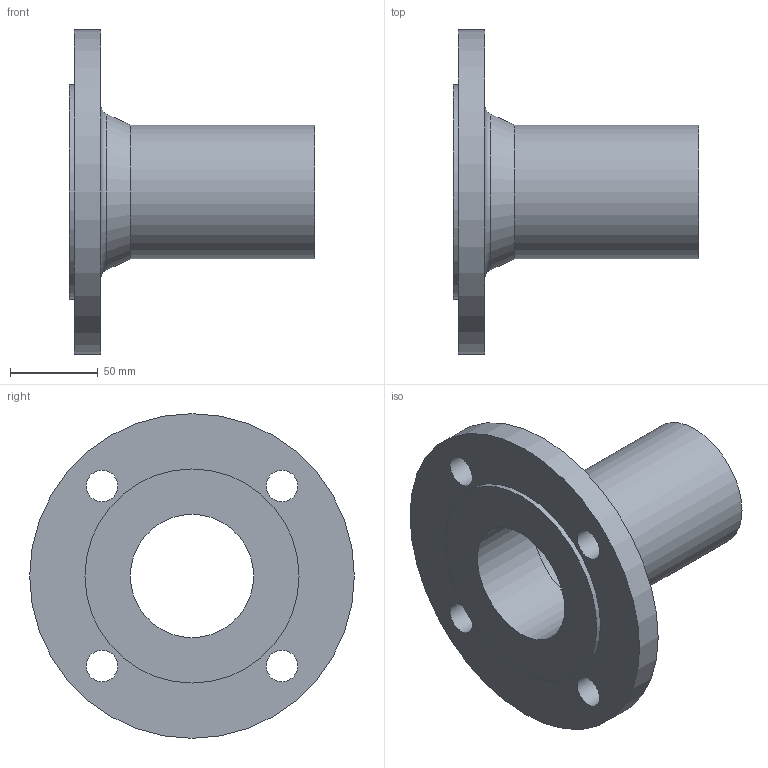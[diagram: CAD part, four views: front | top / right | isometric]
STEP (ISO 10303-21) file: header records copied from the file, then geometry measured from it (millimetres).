
FILE_DESCRIPTION(/* description */ (''),/* implementation_level */ '2;1');
FILE_NAME(/* name */ 'C:\Users\LK_9K\Desktop\STRAUB FLANSCHADAPTER DN65.stp',/* time_stamp */ '2021-04-12T08:23:17+02:00',/* author */ ('LK_9K'),/* organization */ (''),/* preprocessor_version */ 'ST-DEVELOPER v18.1',/* originating_system */ 'Autodesk Inventor 2020',/* authorisation */ '');
FILE_SCHEMA (('AUTOMOTIVE_DESIGN { 1 0 10303 214 3 1 1 }'));
Length unit declared in the file: millimetre
Products named in the file (1): Bauteil1
Bounding box: 140 x 185 x 185 mm (x, y, z)
Volume: 433387.1 mm3; surface area: 116403.2 mm2
Topology: 1 solids, 1 shells, 16 faces, 46 edges, 35 vertices
Faces by surface type: cylinder 9, plane 5, torus 1, cone 1
Full cylindrical faces by diameter (mm): 18 x4, 70.3 x1, 72.1 x1, 76.1 x1, 122 x1, 185 x1
Entity records: 631 total; most frequent: DIRECTION 116, CARTESIAN_POINT 98, ORIENTED_EDGE 92, AXIS2_PLACEMENT_3D 53, EDGE_CURVE 46, CIRCLE 36, VERTEX_POINT 35, EDGE_LOOP 29
